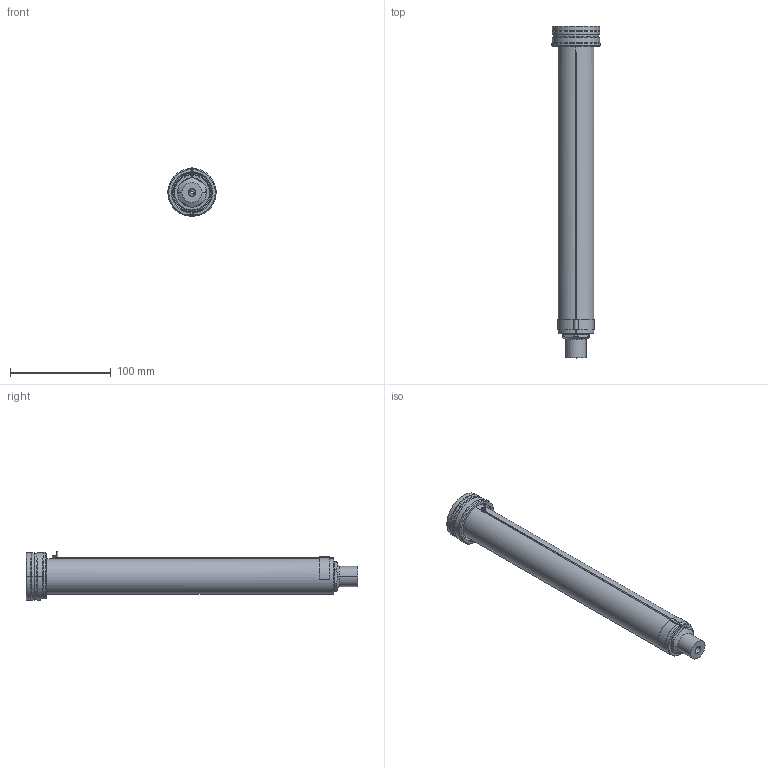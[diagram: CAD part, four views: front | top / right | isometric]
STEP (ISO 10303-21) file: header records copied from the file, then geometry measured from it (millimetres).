
FILE_DESCRIPTION((''),'2;1');
FILE_NAME('EO16_SG_ESG_300_SW','2024-02-19T12:36:41',('sundharh'),(''),'CREO PARAMETRIC BY PTC INC, 2023154','CREO PARAMETRIC BY PTC INC, 2023154','');
FILE_SCHEMA(('CONFIG_CONTROL_DESIGN'));
Length unit declared in the file: millimetre
Products named in the file (1): EO16_SG_ESG_300_SW
Bounding box: 47.97 x 330 x 48 mm (x, y, z)
Volume: 261894.5 mm3; surface area: 60436.3 mm2
Topology: 1 solids, 1 shells, 163 faces, 403 edges, 244 vertices
Faces by surface type: cylinder 64, plane 44, cone 31, torus 14, bspline 7, sphere 3
Entity records: 5641 total; most frequent: CARTESIAN_POINT 1732, DIRECTION 862, ORIENTED_EDGE 786, EDGE_CURVE 393, AXIS2_PLACEMENT_3D 355, VERTEX_POINT 244, CIRCLE 199, EDGE_LOOP 179
